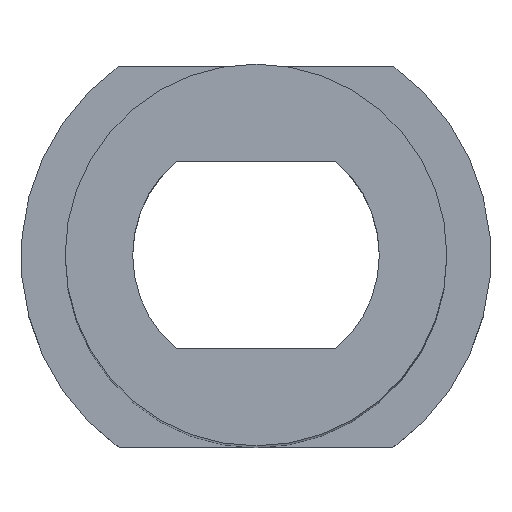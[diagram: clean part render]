
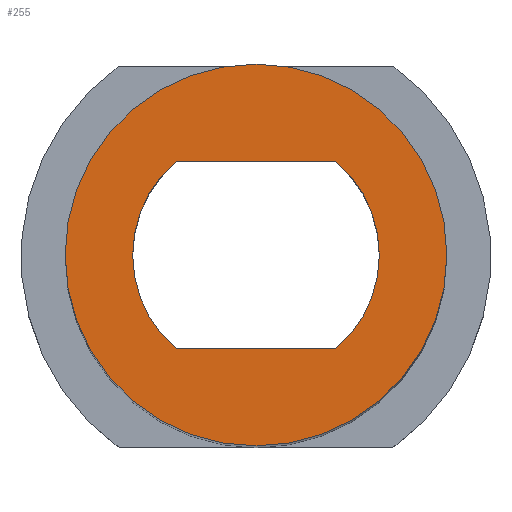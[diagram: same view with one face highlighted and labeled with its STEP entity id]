
A CAD part, top view. The second image highlights one B-rep face of the part: STEP entity #255.
In plain terms, the highlighted planar face has unit normal (0, 0, 1).
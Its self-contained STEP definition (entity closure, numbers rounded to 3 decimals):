
#21=FACE_BOUND('',#82,.T.);
#24=LINE('',#405,#45);
#25=LINE('',#408,#46);
#45=VECTOR('',#322,10.);
#46=VECTOR('',#325,10.);
#66=FACE_OUTER_BOUND('',#81,.T.);
#81=EDGE_LOOP('',(#174));
#82=EDGE_LOOP('',(#175,#176,#177,#178));
#99=CIRCLE('',#285,6.5);
#100=CIRCLE('',#286,4.2);
#101=CIRCLE('',#287,4.2);
#114=VERTEX_POINT('',#399);
#115=VERTEX_POINT('',#401);
#116=VERTEX_POINT('',#402);
#117=VERTEX_POINT('',#404);
#118=VERTEX_POINT('',#406);
#138=EDGE_CURVE('',#114,#114,#99,.T.);
#139=EDGE_CURVE('',#115,#116,#100,.T.);
#140=EDGE_CURVE('',#116,#117,#24,.T.);
#141=EDGE_CURVE('',#117,#118,#101,.T.);
#142=EDGE_CURVE('',#118,#115,#25,.T.);
#174=ORIENTED_EDGE('',*,*,#138,.T.);
#175=ORIENTED_EDGE('',*,*,#139,.T.);
#176=ORIENTED_EDGE('',*,*,#140,.T.);
#177=ORIENTED_EDGE('',*,*,#141,.T.);
#178=ORIENTED_EDGE('',*,*,#142,.T.);
#246=PLANE('',#284);
#255=ADVANCED_FACE('',(#66,#21),#246,.T.);
#284=AXIS2_PLACEMENT_3D('',#398,#316,#317);
#285=AXIS2_PLACEMENT_3D('',#400,#318,#319);
#286=AXIS2_PLACEMENT_3D('',#403,#320,#321);
#287=AXIS2_PLACEMENT_3D('',#407,#323,#324);
#316=DIRECTION('center_axis',(0.,0.,
1.));
#317=DIRECTION('ref_axis',(-1.,0.,0.));
#318=DIRECTION('center_axis',(0.,0.,
1.));
#319=DIRECTION('ref_axis',(-1.,0.,0.));
#320=DIRECTION('center_axis',(0.,0.,
-1.));
#321=DIRECTION('ref_axis',(-1.,0.,0.));
#322=DIRECTION('',(1.,0.,0.));
#323=DIRECTION('center_axis',(0.,0.,
-1.));
#324=DIRECTION('ref_axis',(-1.,0.,0.));
#325=DIRECTION('',(-1.,0.,0.));
#398=CARTESIAN_POINT('Origin',(0.,0.,
-54.));
#399=CARTESIAN_POINT('',(6.5,0.,-54.));
#400=CARTESIAN_POINT('Origin',(0.,0.,
-54.));
#401=CARTESIAN_POINT('',(-2.72,-3.2,-54.));
#402=CARTESIAN_POINT('',(-2.72,3.2,-54.));
#403=CARTESIAN_POINT('Origin',(0.,0.,
-54.));
#404=CARTESIAN_POINT('',(2.72,3.2,-54.));
#405=CARTESIAN_POINT('',(0.,3.2,-54.));
#406=CARTESIAN_POINT('',(2.72,-3.2,-54.));
#407=CARTESIAN_POINT('Origin',(0.,0.,
-54.));
#408=CARTESIAN_POINT('',(0.,-3.2,-54.));
